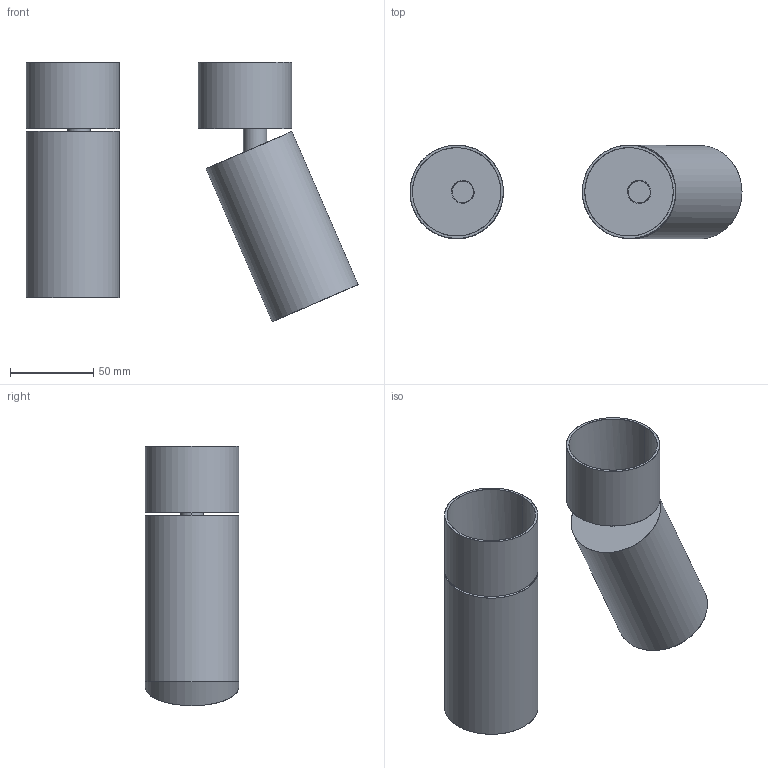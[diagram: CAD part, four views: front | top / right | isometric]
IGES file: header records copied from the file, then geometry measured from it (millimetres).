
Global section: file name: C:\Users\EQUIPO\Desktop\COLECCIONES ACB MODELADAS 3D OK\ZOOM\zoom-3764-foco (IGES).igs; native system: Rhinoceros ( Oct  8 2013 ); preprocessor: Trout Lake IGES 012 Oct  8 2013; date: 190207.092853; units: millimetre
Bounding box: 199.03 x 56 x 155.57 mm (x, y, z)
Surface area: 139522.6 mm2 (no closed solid volume)
Topology: 0 solids, 0 shells, 92 faces, 502 edges, 474 vertices
Faces by surface type: bspline 92
